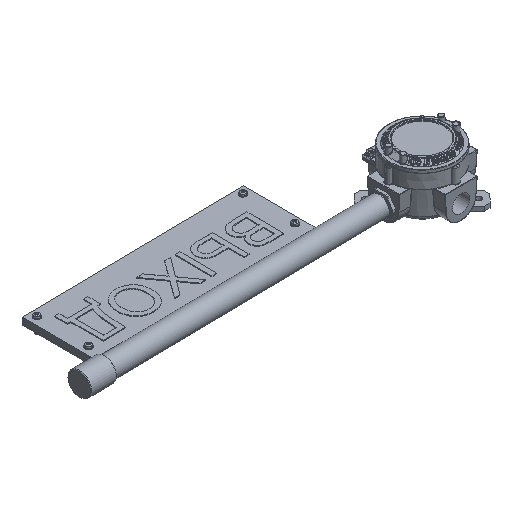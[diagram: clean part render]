
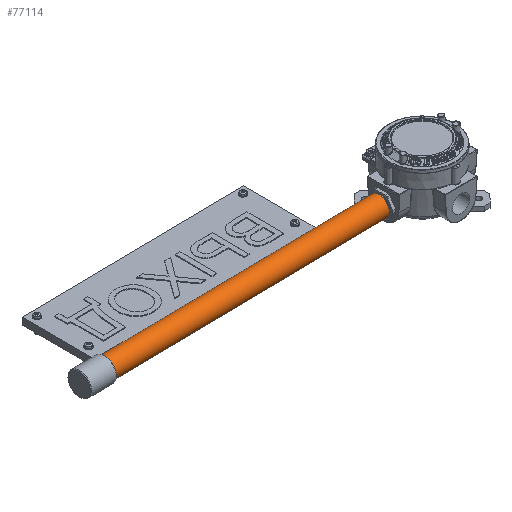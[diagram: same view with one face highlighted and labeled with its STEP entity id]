
A CAD part, isometric view. The second image highlights one B-rep face of the part: STEP entity #77114.
In plain terms, the highlighted cylindrical face has radius 13.45 mm (diameter 26.9 mm), a full revolution.
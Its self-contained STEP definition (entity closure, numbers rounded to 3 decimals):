
#77046=CARTESIAN_POINT('',(-459.647,0.,14.578));
#77047=DIRECTION('',(1.,0.,0.015));
#77048=DIRECTION('',(0.0,1.0,0.0));
#77049=AXIS2_PLACEMENT_3D('',#77046,#77047,#77048);
#77050=CYLINDRICAL_SURFACE('',#77049,13.45);
#77051=CARTESIAN_POINT('',(-437.203,12.841,18.905));
#77052=VERTEX_POINT('',#77051);
#77053=CARTESIAN_POINT('',(-437.087,12.841,10.906));
#77054=VERTEX_POINT('',#77053);
#77055=CARTESIAN_POINT('',(-437.145,0.,14.905));
#77056=DIRECTION('',(1.,0.0,0.015));
#77057=DIRECTION('',(0.0,1.0,0.0));
#77058=AXIS2_PLACEMENT_3D('',#77055,#77056,#77057);
#77059=CIRCLE('',#77058,13.45);
#77060=EDGE_CURVE('',#77052,#77054,#77059,.T.);
#77061=ORIENTED_EDGE('',*,*,#77060,.T.);
#77062=CARTESIAN_POINT('',(-429.592,12.841,11.015));
#77063=VERTEX_POINT('',#77062);
#77064=CARTESIAN_POINT('',(-437.087,12.841,10.906));
#77065=DIRECTION('',(1.,0.0,0.015));
#77066=VECTOR('',#77065,7.496);
#77067=LINE('',#77064,#77066);
#77068=EDGE_CURVE('',#77054,#77063,#77067,.T.);
#77069=ORIENTED_EDGE('',*,*,#77068,.T.);
#77070=CARTESIAN_POINT('',(-129.624,12.841,15.376));
#77071=VERTEX_POINT('',#77070);
#77072=CARTESIAN_POINT('',(-429.592,12.841,11.015));
#77073=DIRECTION('',(1.,0.,0.015));
#77074=VECTOR('',#77073,300.);
#77075=LINE('',#77072,#77074);
#77076=EDGE_CURVE('',#77063,#77071,#77075,.T.);
#77077=ORIENTED_EDGE('',*,*,#77076,.T.);
#77078=CARTESIAN_POINT('',(-129.74,12.841,23.375));
#77079=VERTEX_POINT('',#77078);
#77080=CARTESIAN_POINT('',(-129.682,0.,19.376));
#77081=DIRECTION('',(1.,0.0,0.015));
#77082=DIRECTION('',(0.0,1.0,0.0));
#77083=AXIS2_PLACEMENT_3D('',#77080,#77081,#77082);
#77084=CIRCLE('',#77083,13.45);
#77085=EDGE_CURVE('',#77071,#77079,#77084,.T.);
#77086=ORIENTED_EDGE('',*,*,#77085,.T.);
#77087=CARTESIAN_POINT('',(-429.709,12.841,19.014));
#77088=VERTEX_POINT('',#77087);
#77089=CARTESIAN_POINT('',(-129.74,12.841,23.375));
#77090=DIRECTION('',(-1.,0.,-0.015));
#77091=VECTOR('',#77090,300.);
#77092=LINE('',#77089,#77091);
#77093=EDGE_CURVE('',#77079,#77088,#77092,.T.);
#77094=ORIENTED_EDGE('',*,*,#77093,.T.);
#77095=CARTESIAN_POINT('',(-429.709,12.841,19.014));
#77096=DIRECTION('',(-1.,0.0,-0.015));
#77097=VECTOR('',#77096,7.496);
#77098=LINE('',#77095,#77097);
#77099=EDGE_CURVE('',#77088,#77052,#77098,.T.);
#77100=ORIENTED_EDGE('',*,*,#77099,.T.);
#77101=EDGE_LOOP('',(#77061,#77069,#77077,#77086,#77094,#77100));
#77102=FACE_OUTER_BOUND('',#77101,.T.);
#77103=CARTESIAN_POINT('',(-58.19,-13.45,20.415));
#77104=VERTEX_POINT('',#77103);
#77105=CARTESIAN_POINT('',(-58.19,0.,20.415));
#77106=DIRECTION('',(1.,0.0,0.015));
#77107=DIRECTION('',(0.0,1.0,0.0));
#77108=AXIS2_PLACEMENT_3D('',#77105,#77106,#77107);
#77109=CIRCLE('',#77108,13.45);
#77110=EDGE_CURVE('',#77104,#77104,#77109,.T.);
#77111=ORIENTED_EDGE('',*,*,#77110,.F.);
#77112=EDGE_LOOP('',(#77111));
#77113=FACE_BOUND('',#77112,.T.);
#77114=ADVANCED_FACE('',(#77102,#77113),#77050,.T.);
